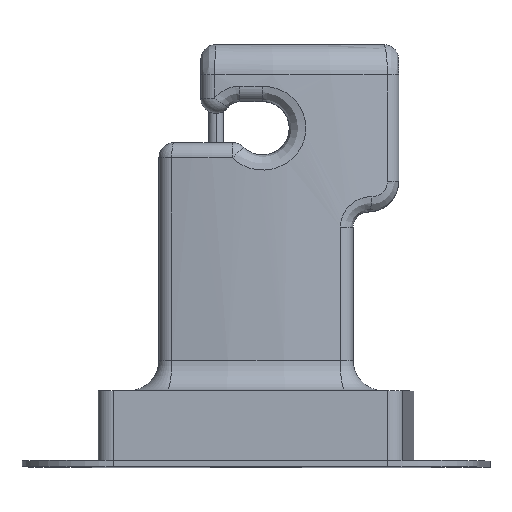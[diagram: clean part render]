
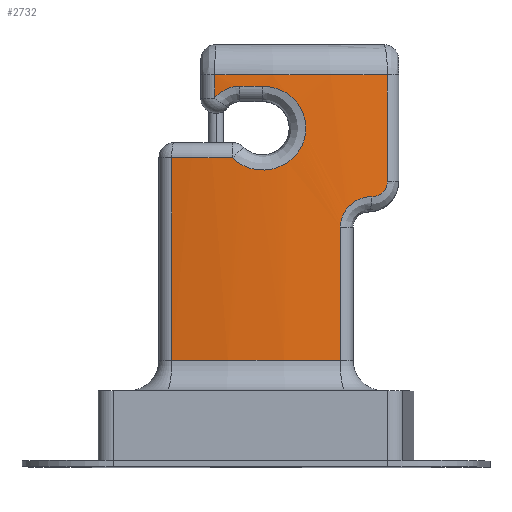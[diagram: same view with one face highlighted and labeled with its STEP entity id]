
A CAD part, top view. The second image highlights one B-rep face of the part: STEP entity #2732.
In plain terms, the highlighted cylindrical face has radius 34.167 mm (diameter 68.334 mm), a partial arc.
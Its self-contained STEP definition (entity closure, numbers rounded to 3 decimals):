
#34=CARTESIAN_POINT('',(-2.704,3.5,3.393));
#41=CARTESIAN_POINT('',(8.628,3.5,2.393));
#57=CARTESIAN_POINT('',(0.,3.5,-30.667));
#58=DIRECTION('',(0.,-1.,0.));
#59=DIRECTION('',(0.253,0.,0.968));
#60=AXIS2_PLACEMENT_3D('',#57,#58,#59);
#509=DIRECTION('',(0.,-1.,0.));
#510=VECTOR('',#509,1.524);
#511=CARTESIAN_POINT('',(-2.704,3.5,3.393));
#512=LINE('',#511,#510);
#513=DIRECTION('',(0.,1.,0.));
#514=VECTOR('',#513,7.);
#515=CARTESIAN_POINT('',(8.628,-3.5,2.393));
#516=LINE('',#515,#514);
#517=CARTESIAN_POINT('',(7.597,-4.5,2.645));
#518=CARTESIAN_POINT('',(7.643,-4.5,2.634));
#519=CARTESIAN_POINT('',(7.732,-4.494,2.614));
#520=CARTESIAN_POINT('',(7.864,-4.469,2.583));
#521=CARTESIAN_POINT('',(7.992,-4.427,2.552));
#522=CARTESIAN_POINT('',(8.112,-4.369,2.523));
#523=CARTESIAN_POINT('',(8.224,-4.297,2.495));
#524=CARTESIAN_POINT('',(8.325,-4.211,2.47));
#525=CARTESIAN_POINT('',(8.414,-4.114,2.448));
#526=CARTESIAN_POINT('',(8.489,-4.006,2.429));
#527=CARTESIAN_POINT('',(8.549,-3.891,2.413));
#528=CARTESIAN_POINT('',(8.593,-3.768,2.402));
#529=CARTESIAN_POINT('',(8.621,-3.636,2.394));
#530=CARTESIAN_POINT('',(8.628,-3.546,2.393));
#531=CARTESIAN_POINT('',(8.628,-3.5,2.393));
#533=CARTESIAN_POINT('',(0.,-15.25,-30.667));
#534=DIRECTION('',(0.,-1.,0.));
#535=DIRECTION('',(0.162,0.,0.987));
#536=AXIS2_PLACEMENT_3D('',#533,#534,#535);
#538=DIRECTION('',(0.,-1.,0.));
#539=VECTOR('',#538,13.3);
#540=CARTESIAN_POINT('',(-5.537,-1.95,3.048));
#541=LINE('',#540,#539);
#542=CARTESIAN_POINT('',(0.,-1.95,-30.667));
#543=DIRECTION('',(0.,-1.,0.));
#544=DIRECTION('',(-0.045,0.,0.999));
#545=AXIS2_PLACEMENT_3D('',#542,#543,#544);
#547=CARTESIAN_POINT('',(0.443,2.75,3.497));
#548=CARTESIAN_POINT('',(0.564,2.75,3.496));
#549=CARTESIAN_POINT('',(0.806,2.735,3.491));
#550=CARTESIAN_POINT('',(1.166,2.667,3.481));
#551=CARTESIAN_POINT('',(1.511,2.555,3.467));
#552=CARTESIAN_POINT('',(1.836,2.403,3.451));
#553=CARTESIAN_POINT('',(2.139,2.212,3.433));
#554=CARTESIAN_POINT('',(2.412,1.987,3.415));
#555=CARTESIAN_POINT('',(2.653,1.731,3.397));
#556=CARTESIAN_POINT('',(2.859,1.45,3.38));
#557=CARTESIAN_POINT('',(3.026,1.147,3.366));
#558=CARTESIAN_POINT('',(3.152,0.828,3.354));
#559=CARTESIAN_POINT('',(3.237,0.497,3.346));
#560=CARTESIAN_POINT('',(3.278,0.159,3.342));
#561=CARTESIAN_POINT('',(3.277,-0.182,3.342));
#562=CARTESIAN_POINT('',(3.232,-0.52,3.347));
#563=CARTESIAN_POINT('',(3.144,-0.852,3.355));
#564=CARTESIAN_POINT('',(3.014,-1.172,3.367));
#565=CARTESIAN_POINT('',(2.843,-1.475,3.382));
#566=CARTESIAN_POINT('',(2.633,-1.756,3.399));
#567=CARTESIAN_POINT('',(2.387,-2.011,3.417));
#568=CARTESIAN_POINT('',(2.108,-2.234,3.435));
#569=CARTESIAN_POINT('',(1.8,-2.423,3.453));
#570=CARTESIAN_POINT('',(1.469,-2.571,3.469));
#571=CARTESIAN_POINT('',(1.122,-2.678,3.482));
#572=CARTESIAN_POINT('',(0.763,-2.74,3.492));
#573=CARTESIAN_POINT('',(0.4,-2.757,3.498));
#574=CARTESIAN_POINT('',(0.038,-2.729,3.501));
#575=CARTESIAN_POINT('',(-0.318,-2.657,
3.499));
#576=CARTESIAN_POINT('',(-0.662,-2.54,
3.494));
#577=CARTESIAN_POINT('',(-0.987,-2.383,
3.486));
#578=CARTESIAN_POINT('',(-1.289,-2.186,3.476));
#579=CARTESIAN_POINT('',(-1.469,-2.032,3.469));
#580=CARTESIAN_POINT('',(-1.555,-1.95,3.465));
#582=CARTESIAN_POINT('',(0.,2.75,-30.667));
#583=DIRECTION('',(0.,1.,0.));
#584=DIRECTION('',(-0.032,0.,1.));
#585=AXIS2_PLACEMENT_3D('',#582,#583,#584);
#587=CARTESIAN_POINT('',(-2.704,1.976,3.393));
#588=CARTESIAN_POINT('',(-2.648,2.046,3.397));
#589=CARTESIAN_POINT('',(-2.529,2.176,3.406));
#590=CARTESIAN_POINT('',(-2.335,2.34,3.42));
#591=CARTESIAN_POINT('',(-2.118,2.482,3.435));
#592=CARTESIAN_POINT('',(-1.886,2.595,3.448));
#593=CARTESIAN_POINT('',(-1.64,2.68,3.461));
#594=CARTESIAN_POINT('',(-1.366,2.737,3.473));
#595=CARTESIAN_POINT('',(-1.175,2.75,3.48));
#596=CARTESIAN_POINT('',(-1.077,2.75,3.483));
#855=DIRECTION('',(0.,1.,0.));
#856=VECTOR('',#855,8.75);
#857=CARTESIAN_POINT('',(5.537,-15.25,3.048));
#858=LINE('',#857,#856);
#859=CARTESIAN_POINT('',(5.537,-6.5,3.048));
#860=CARTESIAN_POINT('',(5.537,-6.416,3.048));
#861=CARTESIAN_POINT('',(5.548,-6.249,3.047));
#862=CARTESIAN_POINT('',(5.597,-5.997,3.038));
#863=CARTESIAN_POINT('',(5.681,-5.751,3.025));
#864=CARTESIAN_POINT('',(5.796,-5.518,3.005));
#865=CARTESIAN_POINT('',(5.942,-5.3,2.98));
#866=CARTESIAN_POINT('',(6.116,-5.102,2.948));
#867=CARTESIAN_POINT('',(6.316,-4.926,2.911));
#868=CARTESIAN_POINT('',(6.541,-4.776,2.868));
#869=CARTESIAN_POINT('',(6.786,-4.655,2.82));
#870=CARTESIAN_POINT('',(7.048,-4.566,2.765));
#871=CARTESIAN_POINT('',(7.321,-4.512,2.707));
#872=CARTESIAN_POINT('',(7.505,-4.5,2.666));
#873=CARTESIAN_POINT('',(7.597,-4.5,2.645));
#1551=CARTESIAN_POINT('',(5.537,-15.25,3.048));
#1552=VERTEX_POINT('',#1551);
#1555=CARTESIAN_POINT('',(-5.537,-15.25,3.048));
#1556=VERTEX_POINT('',#1555);
#1645=VERTEX_POINT('',#41);
#1647=CARTESIAN_POINT('',(8.628,-3.5,2.393));
#1648=VERTEX_POINT('',#1647);
#1662=CARTESIAN_POINT('',(5.537,-6.5,3.048));
#1664=VERTEX_POINT('',#1662);
#1665=CARTESIAN_POINT('',(7.597,-4.5,2.645));
#1666=VERTEX_POINT('',#1665);
#1703=VERTEX_POINT('',#34);
#1705=CARTESIAN_POINT('',(-2.704,1.976,3.393));
#1706=VERTEX_POINT('',#1705);
#1711=VERTEX_POINT('',#596);
#1713=CARTESIAN_POINT('',(0.443,2.75,3.497));
#1714=VERTEX_POINT('',#1713);
#1717=VERTEX_POINT('',#580);
#1721=CARTESIAN_POINT('',(-5.537,-1.95,3.048));
#1722=VERTEX_POINT('',#1721);
#2704=CARTESIAN_POINT('',(0.,-22.25,-30.667));
#2705=DIRECTION('',(0.,1.,0.));
#2706=DIRECTION('',(0.,0.,-1.));
#2707=AXIS2_PLACEMENT_3D('',#2704,#2705,#2706);
#2708=CYLINDRICAL_SURFACE('',#2707,34.167);
#2710=ORIENTED_EDGE('',*,*,#2709,.F.);
#2711=ORIENTED_EDGE('',*,*,#1942,.F.);
#2713=ORIENTED_EDGE('',*,*,#2712,.F.);
#2715=ORIENTED_EDGE('',*,*,#2714,.F.);
#2717=ORIENTED_EDGE('',*,*,#2716,.F.);
#2719=ORIENTED_EDGE('',*,*,#2718,.F.);
#2721=ORIENTED_EDGE('',*,*,#2720,.T.);
#2722=ORIENTED_EDGE('',*,*,#2670,.F.);
#2723=ORIENTED_EDGE('',*,*,#2695,.F.);
#2725=ORIENTED_EDGE('',*,*,#2724,.F.);
#2727=ORIENTED_EDGE('',*,*,#2726,.F.);
#2729=ORIENTED_EDGE('',*,*,#2728,.F.);
#2730=EDGE_LOOP('',(#2710,#2711,#2713,#2715,#2717,#2719,#2721,#2722,#2723,#2725,
#2727,#2729));
#2731=FACE_OUTER_BOUND('',#2730,.F.);
#2732=ADVANCED_FACE('',(#2731),#2708,.T.);
#61=CIRCLE('',#60,34.167);
#532=B_SPLINE_CURVE_WITH_KNOTS('',3,(#517,#518,#519,#520,#521,#522,#523,#524,
#525,#526,#527,#528,#529,#530,#531),.UNSPECIFIED.,.F.,.F.,(4,1,1,1,1,1,1,1,1,1,
1,1,4),(0.,0.083,0.167,0.25,0.333,
0.417,0.5,0.583,0.667,0.75,
0.833,0.917,1.),.UNSPECIFIED.);
#537=CIRCLE('',#536,34.167);
#546=CIRCLE('',#545,34.167);
#581=B_SPLINE_CURVE_WITH_KNOTS('',3,(#547,#548,#549,#550,#551,#552,#553,#554,
#555,#556,#557,#558,#559,#560,#561,#562,#563,#564,#565,#566,#567,#568,#569,#570,
#571,#572,#573,#574,#575,#576,#577,#578,#579,#580),.UNSPECIFIED.,.F.,.F.,(4,1,1,
1,1,1,1,1,1,1,1,1,1,1,1,1,1,1,1,1,1,1,1,1,1,1,1,1,1,1,1,4),(0.,
0.032,0.065,0.097,0.129,
0.161,0.194,0.226,0.258,
0.29,0.323,0.355,0.387,
0.419,0.452,0.484,0.516,
0.548,0.581,0.613,0.645,
0.677,0.71,0.742,0.774,
0.806,0.839,0.871,0.903,
0.935,0.968,1.),.UNSPECIFIED.);
#586=CIRCLE('',#585,34.167);
#597=B_SPLINE_CURVE_WITH_KNOTS('',3,(#587,#588,#589,#590,#591,#592,#593,#594,
#595,#596),.UNSPECIFIED.,.F.,.F.,(4,1,1,1,1,1,1,4),(0.,0.143,
0.286,0.429,0.571,0.714,
0.857,1.),.UNSPECIFIED.);
#874=B_SPLINE_CURVE_WITH_KNOTS('',3,(#859,#860,#861,#862,#863,#864,#865,#866,
#867,#868,#869,#870,#871,#872,#873),.UNSPECIFIED.,.F.,.F.,(4,1,1,1,1,1,1,1,1,1,
1,1,4),(0.,0.083,0.167,0.25,0.333,
0.417,0.5,0.583,0.667,0.75,
0.833,0.917,1.),.UNSPECIFIED.);
#1942=EDGE_CURVE('',#1645,#1703,#61,.T.);
#2670=EDGE_CURVE('',#1722,#1556,#541,.T.);
#2695=EDGE_CURVE('',#1717,#1722,#546,.T.);
#2709=EDGE_CURVE('',#1703,#1706,#512,.T.);
#2712=EDGE_CURVE('',#1648,#1645,#516,.T.);
#2714=EDGE_CURVE('',#1666,#1648,#532,.T.);
#2716=EDGE_CURVE('',#1664,#1666,#874,.T.);
#2718=EDGE_CURVE('',#1552,#1664,#858,.T.);
#2720=EDGE_CURVE('',#1552,#1556,#537,.T.);
#2724=EDGE_CURVE('',#1714,#1717,#581,.T.);
#2726=EDGE_CURVE('',#1711,#1714,#586,.T.);
#2728=EDGE_CURVE('',#1706,#1711,#597,.T.);
